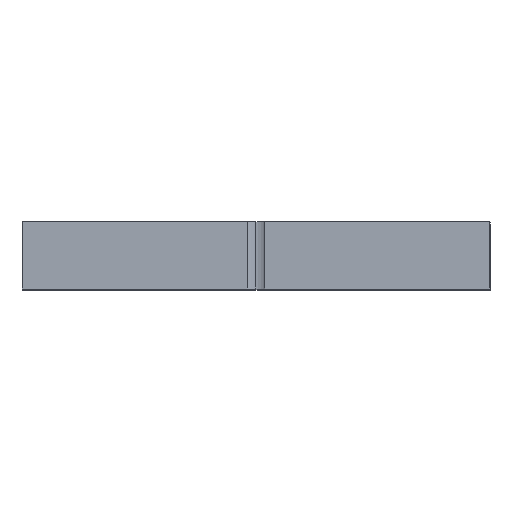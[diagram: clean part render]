
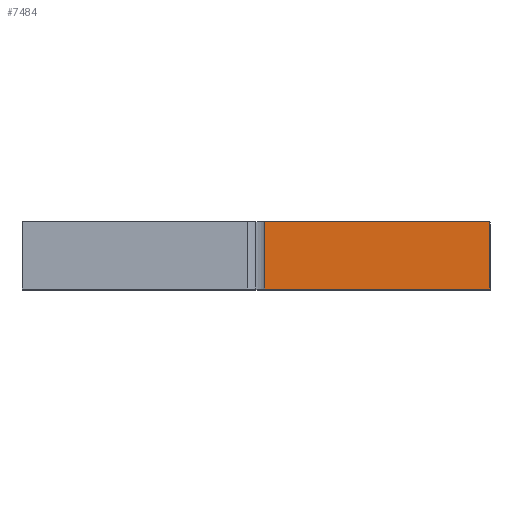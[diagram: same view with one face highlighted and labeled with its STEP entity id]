
A CAD part, top view. The second image highlights one B-rep face of the part: STEP entity #7484.
In plain terms, the highlighted planar face has unit normal (0, 0, 1).
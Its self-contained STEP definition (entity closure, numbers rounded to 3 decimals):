
#353 = CARTESIAN_POINT ( 'NONE',  ( 0., 0., 0. ) ) ;
#746 = CARTESIAN_POINT ( 'NONE',  ( 0., 7.2, 0. ) ) ;
#1118 = LINE ( 'NONE', #6526, #10161 ) ;
#1140 = CARTESIAN_POINT ( 'NONE',  ( -24.083, 0., 0. ) ) ;
#1663 = EDGE_CURVE ( 'NONE', #6089, #4376, #9999, .T. ) ;
#2674 = ORIENTED_EDGE ( 'NONE', *, *, #9246, .T. ) ;
#2886 = CARTESIAN_POINT ( 'NONE',  ( -50., 7.2, 0. ) ) ;
#2898 = PLANE ( 'NONE',  #6139 ) ;
#2911 = DIRECTION ( 'NONE',  ( 0., -1., 0. ) ) ;
#4376 = VERTEX_POINT ( 'NONE', #746 ) ;
#4455 = VECTOR ( 'NONE', #2911, 1000. ) ;
#5509 = LINE ( 'NONE', #5982, #8789 ) ;
#5711 = FACE_OUTER_BOUND ( 'NONE', #6857, .T. ) ;
#5982 = CARTESIAN_POINT ( 'NONE',  ( 0., -1.5, 0. ) ) ;
#6045 = ORIENTED_EDGE ( 'NONE', *, *, #1663, .F. ) ;
#6089 = VERTEX_POINT ( 'NONE', #8553 ) ;
#6139 = AXIS2_PLACEMENT_3D ( 'NONE', #353, #10852, #10808 ) ;
#6385 = VERTEX_POINT ( 'NONE', #10113 ) ;
#6526 = CARTESIAN_POINT ( 'NONE',  ( 0., 0., 0. ) ) ;
#6857 = EDGE_LOOP ( 'NONE', ( #2674, #7984, #6045, #8247 ) ) ;
#6920 = DIRECTION ( 'NONE',  ( 0., 1., 0. ) ) ;
#7484 = ADVANCED_FACE ( 'NONE', ( #5711 ), #2898, .T. ) ;
#7617 = LINE ( 'NONE', #1140, #4455 ) ;
#7715 = VECTOR ( 'NONE', #9087, 1000. ) ;
#7937 = EDGE_CURVE ( 'NONE', #6089, #6385, #7617, .T. ) ;
#7967 = CARTESIAN_POINT ( 'NONE',  ( 0., 0., 0. ) ) ;
#7984 = ORIENTED_EDGE ( 'NONE', *, *, #10149, .T. ) ;
#8247 = ORIENTED_EDGE ( 'NONE', *, *, #7937, .T. ) ;
#8553 = CARTESIAN_POINT ( 'NONE',  ( -24.083, 7.2, 0. ) ) ;
#8789 = VECTOR ( 'NONE', #6920, 1000. ) ;
#9055 = VERTEX_POINT ( 'NONE', #7967 ) ;
#9087 = DIRECTION ( 'NONE',  ( 1., 0., 0. ) ) ;
#9246 = EDGE_CURVE ( 'NONE', #6385, #9055, #1118, .T. ) ;
#9999 = LINE ( 'NONE', #2886, #7715 ) ;
#10113 = CARTESIAN_POINT ( 'NONE',  ( -24.083, 0., 0. ) ) ;
#10149 = EDGE_CURVE ( 'NONE', #9055, #4376, #5509, .T. ) ;
#10161 = VECTOR ( 'NONE', #10908, 1000. ) ;
#10808 = DIRECTION ( 'NONE',  ( 1., 0., 0. ) ) ;
#10852 = DIRECTION ( 'NONE',  ( 0., 0., 1. ) ) ;
#10908 = DIRECTION ( 'NONE',  ( 1., 0., 0. ) ) ;
